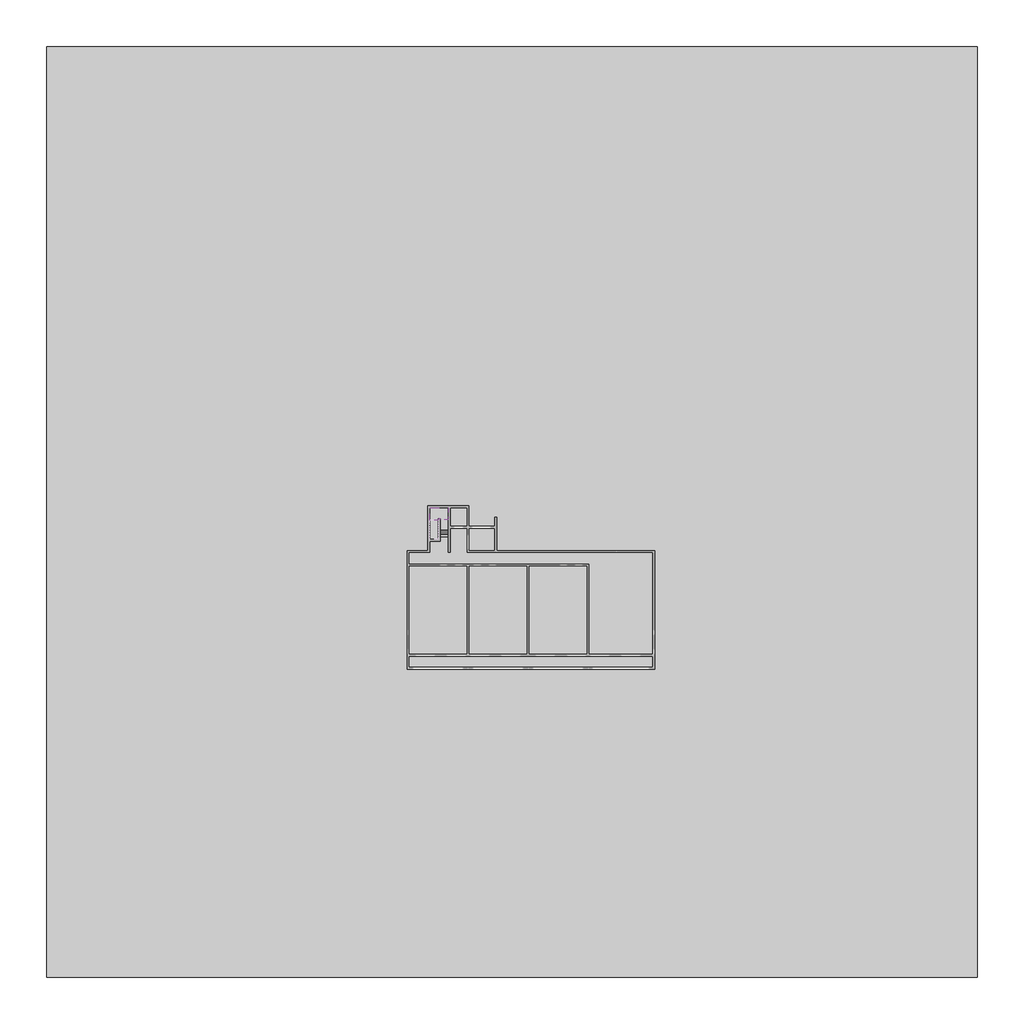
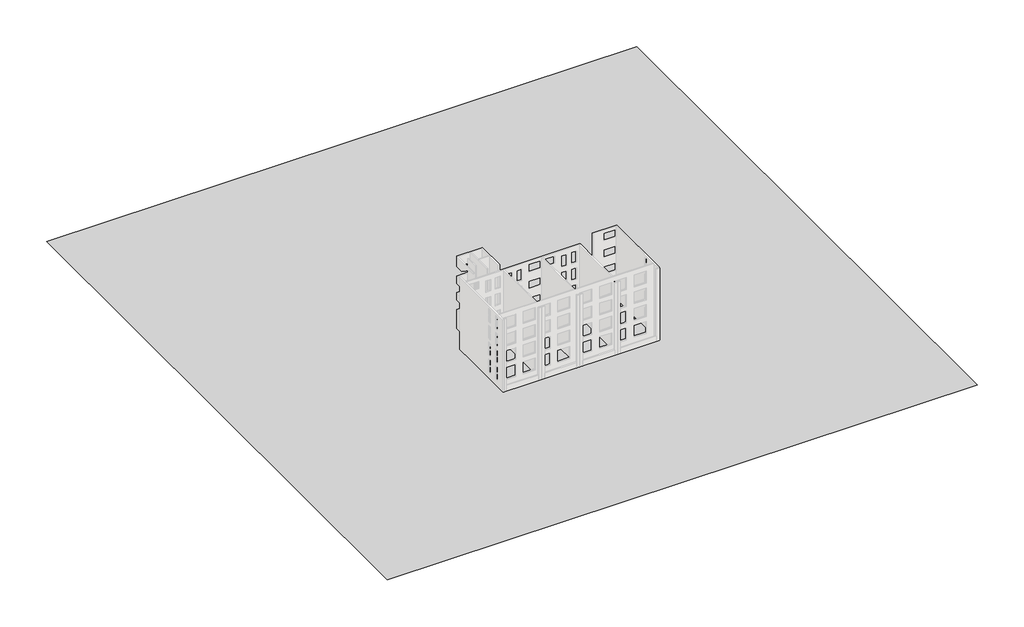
# One storey, part 5 of 5: 1 proxy, 1 slab, 1 stair flight.
"""IFC4 building model written with IfcOpenShell, lengths in millimetres."""

from ifc_helpers import new_model, si_unit, frame, origin, place, context, project, spatial, polyline, outline, extrude, faceted_brep, triangles, element, save

model = new_model("IFC4")

# Units and contexts
model_context = context("Model", 3, world=origin())
ifc_project = project(units=[si_unit("LENGTHUNIT", "METRE", prefix="MILLI")], contexts=[model_context])

# Site, building, storey
site = spatial("IfcSite", under=ifc_project)
building = spatial("IfcBuilding", under=site)
storey = spatial("IfcBuildingStorey", under=building, Name="設計GL", Elevation=0.0)

# Proxy
placement = place(None, origin())
element("IfcBuildingElementProxy", 1, Name="Building Element Proxy", at=placement, inside=storey, context=model_context, shape_type="Tessellation", body=[
    triangles([(-49999.9992188, 49999.9992188, 0.0), (49999.9992188, 49999.9992188, 0.0), (49999.9992188, -49999.9992188, 0.0), (-49999.9992188, -49999.9992188, 0.0)], [[1, 4, 3], [3, 2, 1]], closed=False),
])

# Slab
element("IfcSlab", 2, ObjectType="150 mm 厚さ", at=placement, inside=storey, context=model_context, shape_type="SolidModel", body=[
    faceted_brep([(-7728.7187246, -810.1171638, 2331.7647059), (-6828.7187246, -810.1171638, 2331.7647059), (-6828.7187246, -504.0198032, 2331.7647059), (-6828.7187246, 449.8828362, 2331.7647059), (-8828.7187246, 449.8828362, 2331.7647059), (-8828.7187246, -840.1171638, 2331.7647059), (-8828.7187246, -870.1171638, 2331.7647059), (-7928.7187246, -870.1171638, 2331.7647059), (-7928.7187246, -840.1171638, 2331.7647059), (-7928.7187246, -750.1171638, 2331.7647059), (-7728.7187246, -750.1171638, 2331.7647059), (-7728.7187246, -750.1171638, 2181.7647059), (-7728.7187246, -504.0198032, 2181.7647059), (-7728.7187246, -810.1171638, 1974.0063164), (-7728.7187246, -810.1171638, 2155.2941176), (-6828.7187246, -810.1171638, 2155.2941176), (-6828.7187246, -810.1171638, 1974.0063164), (-6828.7187246, -504.0198032, 2181.7647059), (-6828.7187246, 449.8828362, 2181.7647059), (-8828.7187246, -840.1171638, 2181.7647059), (-8828.7187246, -870.1171638, 2181.7647059), (-7928.7187246, -870.1171638, 2181.7647059), (-7928.7187246, -840.1171638, 2181.7647059), (-7928.7187246, -750.1171638, 2181.7647059), (-8828.7187246, 449.8828362, 2181.7647059)], [[[0, 1, 2, 3, 4, 5, 6, 7, 8, 9, 10]], [[0, 10, 11, 12, 13, 14]], [[1, 15, 16, 17, 18, 3, 2]], [[6, 5, 19, 20]], [[8, 7, 21, 22]], [[9, 8, 22, 23]], [[17, 12, 11, 23, 22, 21, 20, 19, 24, 18]], [[13, 12, 17, 16]], [[4, 3, 18, 24]], [[10, 9, 23, 11]], [[1, 0, 14, 13, 16, 15]], [[5, 4, 24, 19]], [[7, 6, 20, 21]]]),
    extrude(outline(polyline([(-7728.7187246, -840.1171638), (-7728.7187246, -750.1171638), (-7928.7187246, -750.1171638), (-7928.7187246, -840.1171638), (-7928.7187246, -870.1171638), (-8828.7187246, -870.1171638), (-8828.7187246, -840.1171638), (-8828.7187246, 449.8828362), (-6828.7187246, 449.8828362), (-6828.7187246, -840.1171638), (-7728.7187246, -840.1171638)])), frame((0.0, 0.0, 2331.7647059), z_axis=(0.0, 0.0, 1.0), x_axis=(1.0, 0.0, 0.0)), (0.0, 0.0, 1.0), 30.0),
])

# Stair flight
element("IfcStairFlight", 3, ObjectType="30 mm 踏み板 30 mm 蹴込み板", at=placement, inside=storey, context=model_context, shape_type="SolidModel", body=[
    faceted_brep([(-7728.7187246, -2370.1171638, 1096.4705882), (-7728.7187246, -2630.1171638, 1096.4705882), (-6828.7187246, -2630.1171638, 1096.4705882), (-6828.7187246, -2370.1171638, 1096.4705882), (-7728.7187246, -2370.1171638, 950.0), (-7728.7187246, -2630.1171638, 950.0), (-6828.7187246, -2630.1171638, 950.0), (-6828.7187246, -2370.1171638, 950.0), (-7728.7187246, -2110.1171638, 1272.9411765), (-7728.7187246, -2370.1171638, 1272.9411765), (-6828.7187246, -2370.1171638, 1272.9411765), (-6828.7187246, -2110.1171638, 1272.9411765), (-7728.7187246, -2110.1171638, 1091.6533752), (-7728.7187246, -2318.8198032, 950.0), (-6828.7187246, -2318.8198032, 950.0), (-6828.7187246, -2110.1171638, 1091.6533752), (-7728.7187246, -1850.1171638, 1449.4117647), (-7728.7187246, -2110.1171638, 1449.4117647), (-6828.7187246, -2110.1171638, 1449.4117647), (-6828.7187246, -1850.1171638, 1449.4117647), (-7728.7187246, -1850.1171638, 1268.1239634), (-6828.7187246, -1850.1171638, 1268.1239634), (-7728.7187246, -1590.1171638, 1625.8823529), (-7728.7187246, -1850.1171638, 1625.8823529), (-6828.7187246, -1850.1171638, 1625.8823529), (-6828.7187246, -1590.1171638, 1625.8823529), (-7728.7187246, -1590.1171638, 1444.5945517), (-6828.7187246, -1590.1171638, 1444.5945517), (-7728.7187246, -1330.1171638, 1802.3529412), (-7728.7187246, -1590.1171638, 1802.3529412), (-6828.7187246, -1590.1171638, 1802.3529412), (-6828.7187246, -1330.1171638, 1802.3529412), (-7728.7187246, -1330.1171638, 1621.0651399), (-6828.7187246, -1330.1171638, 1621.0651399), (-7728.7187246, -1070.1171638, 1978.8235294), (-7728.7187246, -1330.1171638, 1978.8235294), (-6828.7187246, -1330.1171638, 1978.8235294), (-6828.7187246, -1070.1171638, 1978.8235294), (-7728.7187246, -1070.1171638, 1797.5357281), (-6828.7187246, -1070.1171638, 1797.5357281), (-7728.7187246, -840.1171638, 1953.6443254), (-7728.7187246, -810.1171638, 1974.0063164), (-6828.7187246, -810.1171638, 1974.0063164), (-6828.7187246, -840.1171638, 1953.6443254), (-7728.7187246, -810.1171638, 2155.2941176), (-7728.7187246, -840.1171638, 2155.2941176), (-7728.7187246, -1070.1171638, 2155.2941176), (-6828.7187246, -1070.1171638, 2155.2941176), (-6828.7187246, -840.1171638, 2155.2941176), (-6828.7187246, -810.1171638, 2155.2941176)], [[[0, 1, 2, 3]], [[1, 0, 4, 5]], [[2, 1, 5, 6]], [[3, 2, 6, 7]], [[8, 9, 10, 11]], [[4, 0, 9, 8, 12, 13]], [[0, 3, 10, 9]], [[3, 7, 14, 15, 11, 10]], [[16, 17, 18, 19]], [[17, 16, 20, 12, 8]], [[8, 11, 18, 17]], [[19, 18, 11, 15, 21]], [[22, 23, 24, 25]], [[23, 22, 26, 20, 16]], [[16, 19, 24, 23]], [[25, 24, 19, 21, 27]], [[28, 29, 30, 31]], [[29, 28, 32, 26, 22]], [[22, 25, 30, 29]], [[31, 30, 25, 27, 33]], [[34, 35, 36, 37]], [[35, 34, 38, 32, 28]], [[28, 31, 36, 35]], [[37, 36, 31, 33, 39]], [[5, 4, 13, 14, 7, 6]], [[14, 13, 12, 20, 26, 32, 38, 40, 41, 42, 43, 39, 33, 27, 21, 15]], [[44, 45, 46, 47, 48, 49]], [[45, 44, 41, 40]], [[34, 37, 47, 46]], [[48, 47, 37, 39, 43]], [[49, 48, 43, 42]], [[44, 49, 42, 41]], [[46, 45, 40, 38, 34]]]),
    extrude(outline(polyline([(-6828.7187246, -2630.1171638), (-6828.7187246, -2660.1171638), (-7728.7187246, -2660.1171638), (-7728.7187246, -2630.1171638), (-6828.7187246, -2630.1171638)])), frame((0.0, 0.0, 950.0), z_axis=(0.0, 0.0, 1.0), x_axis=(1.0, 0.0, 0.0)), (0.0, 0.0, 1.0), 146.4705882),
    extrude(outline(polyline([(-7728.7187246, -2370.1171638), (-6828.7187246, -2370.1171638), (-6828.7187246, -2660.1171638), (-7728.7187246, -2660.1171638), (-7728.7187246, -2370.1171638)])), frame((0.0, 0.0, 1096.4705882), z_axis=(0.0, 0.0, 1.0), x_axis=(1.0, 0.0, 0.0)), (0.0, 0.0, 1.0), 30.0),
    extrude(outline(polyline([(-6828.7187246, -2370.1171638), (-6828.7187246, -2400.1171638), (-7728.7187246, -2400.1171638), (-7728.7187246, -2370.1171638), (-6828.7187246, -2370.1171638)])), frame((0.0, 0.0, 1126.4705882), z_axis=(0.0, 0.0, 1.0), x_axis=(1.0, 0.0, 0.0)), (0.0, 0.0, 1.0), 146.4705882),
    extrude(outline(polyline([(-7728.7187246, -2110.1171638), (-6828.7187246, -2110.1171638), (-6828.7187246, -2400.1171638), (-7728.7187246, -2400.1171638), (-7728.7187246, -2110.1171638)])), frame((0.0, 0.0, 1272.9411765), z_axis=(0.0, 0.0, 1.0), x_axis=(1.0, 0.0, 0.0)), (0.0, 0.0, 1.0), 30.0),
    extrude(outline(polyline([(-6828.7187246, -2110.1171638), (-6828.7187246, -2140.1171638), (-7728.7187246, -2140.1171638), (-7728.7187246, -2110.1171638), (-6828.7187246, -2110.1171638)])), frame((0.0, 0.0, 1302.9411765), z_axis=(0.0, 0.0, 1.0), x_axis=(1.0, 0.0, 0.0)), (0.0, 0.0, 1.0), 146.4705882),
    extrude(outline(polyline([(-7728.7187246, -1850.1171638), (-6828.7187246, -1850.1171638), (-6828.7187246, -2140.1171638), (-7728.7187246, -2140.1171638), (-7728.7187246, -1850.1171638)])), frame((0.0, 0.0, 1449.4117647), z_axis=(0.0, 0.0, 1.0), x_axis=(1.0, 0.0, 0.0)), (0.0, 0.0, 1.0), 30.0),
    extrude(outline(polyline([(-6828.7187246, -1850.1171638), (-6828.7187246, -1880.1171638), (-7728.7187246, -1880.1171638), (-7728.7187246, -1850.1171638), (-6828.7187246, -1850.1171638)])), frame((0.0, 0.0, 1479.4117647), z_axis=(0.0, 0.0, 1.0), x_axis=(1.0, 0.0, 0.0)), (0.0, 0.0, 1.0), 146.4705882),
    extrude(outline(polyline([(-7728.7187246, -1590.1171638), (-6828.7187246, -1590.1171638), (-6828.7187246, -1880.1171638), (-7728.7187246, -1880.1171638), (-7728.7187246, -1590.1171638)])), frame((0.0, 0.0, 1625.8823529), z_axis=(0.0, 0.0, 1.0), x_axis=(1.0, 0.0, 0.0)), (0.0, 0.0, 1.0), 30.0),
    extrude(outline(polyline([(-6828.7187246, -1590.1171638), (-6828.7187246, -1620.1171638), (-7728.7187246, -1620.1171638), (-7728.7187246, -1590.1171638), (-6828.7187246, -1590.1171638)])), frame((0.0, 0.0, 1655.8823529), z_axis=(0.0, 0.0, 1.0), x_axis=(1.0, 0.0, 0.0)), (0.0, 0.0, 1.0), 146.4705882),
    extrude(outline(polyline([(-7728.7187246, -1330.1171638), (-6828.7187246, -1330.1171638), (-6828.7187246, -1620.1171638), (-7728.7187246, -1620.1171638), (-7728.7187246, -1330.1171638)])), frame((0.0, 0.0, 1802.3529412), z_axis=(0.0, 0.0, 1.0), x_axis=(1.0, 0.0, 0.0)), (0.0, 0.0, 1.0), 30.0),
    extrude(outline(polyline([(-6828.7187246, -1330.1171638), (-6828.7187246, -1360.1171638), (-7728.7187246, -1360.1171638), (-7728.7187246, -1330.1171638), (-6828.7187246, -1330.1171638)])), frame((0.0, 0.0, 1832.3529412), z_axis=(0.0, 0.0, 1.0), x_axis=(1.0, 0.0, 0.0)), (0.0, 0.0, 1.0), 146.4705882),
    extrude(outline(polyline([(-7728.7187246, -1070.1171638), (-6828.7187246, -1070.1171638), (-6828.7187246, -1360.1171638), (-7728.7187246, -1360.1171638), (-7728.7187246, -1070.1171638)])), frame((0.0, 0.0, 1978.8235294), z_axis=(0.0, 0.0, 1.0), x_axis=(1.0, 0.0, 0.0)), (0.0, 0.0, 1.0), 30.0),
    extrude(outline(polyline([(-6828.7187246, -810.1171638), (-6828.7187246, -840.1171638), (-7728.7187246, -840.1171638), (-7728.7187246, -810.1171638), (-6828.7187246, -810.1171638)])), frame((0.0, 0.0, 2185.2941176), z_axis=(0.0, 0.0, 1.0), x_axis=(1.0, 0.0, 0.0)), (0.0, 0.0, 1.0), 146.4705882),
    extrude(outline(polyline([(-6828.7187246, -1070.1171638), (-6828.7187246, -1100.1171638), (-7728.7187246, -1100.1171638), (-7728.7187246, -1070.1171638), (-6828.7187246, -1070.1171638)])), frame((0.0, 0.0, 2008.8235294), z_axis=(0.0, 0.0, 1.0), x_axis=(1.0, 0.0, 0.0)), (0.0, 0.0, 1.0), 146.4705882),
    extrude(outline(polyline([(-7728.7187246, -810.1171638), (-6828.7187246, -810.1171638), (-6828.7187246, -840.1171638), (-6828.7187246, -1100.1171638), (-7728.7187246, -1100.1171638), (-7728.7187246, -840.1171638), (-7728.7187246, -810.1171638)])), frame((0.0, 0.0, 2155.2941176), z_axis=(0.0, 0.0, 1.0), x_axis=(1.0, 0.0, 0.0)), (0.0, 0.0, 1.0), 30.0),
])

save(model, "model.ifc")
